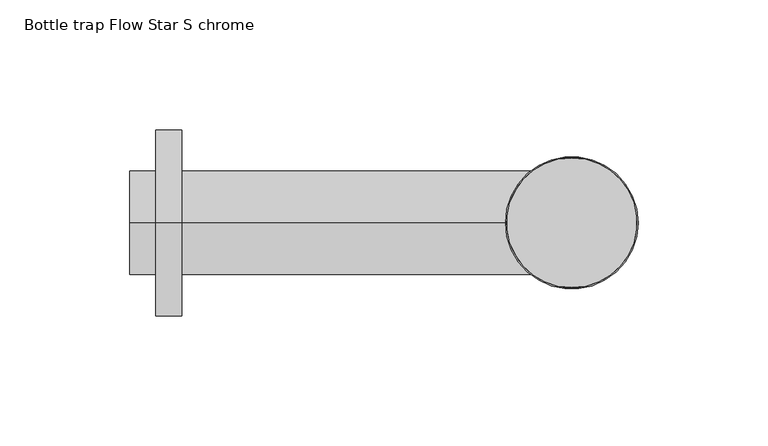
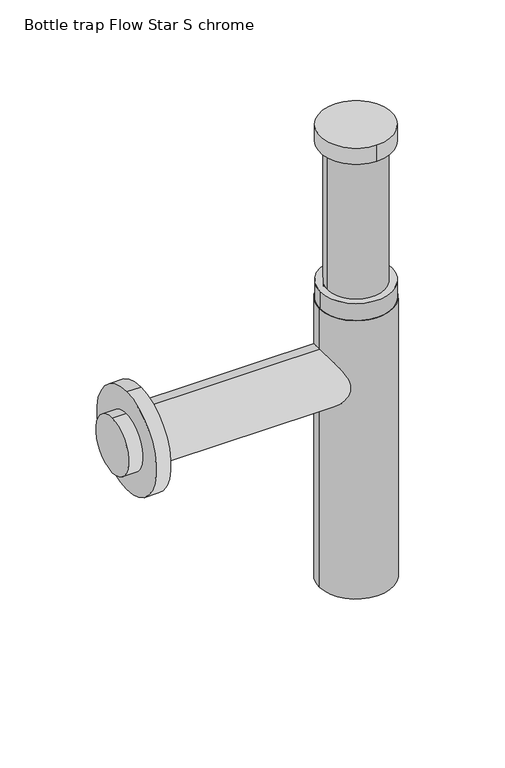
"""IFC4 building model written with IfcOpenShell, lengths in millimetres: flow terminal geometry, GF_SIFON-VESILUKKO FLOWSTAR S KROMI : Bottle trap Flow Star S chrome."""

from ifc_helpers import new_model, si_unit, point, frame, frame_2d, origin, origin_with_axes, origin_2d, place, context, project, spatial, circle_curve, trimmed, segment, composite_curve, outline, extrude, source, transform, mapped, element, save


def bottle_trap_flow_star_s_chrome_bf7072b5(model_context):
    return source(origin(), model_context, "Body", "SweptSolid", [
        extrude(outline(composite_curve([segment(trimmed(circle_curve(origin_2d(), 25.0), [point((0.0, 25.0))], [point((0.0, -25.0))], False, "CARTESIAN"), True, "CONTINUOUS"), segment(trimmed(circle_curve(origin_2d(), 25.0), [point((0.0, -25.0))], [point((0.0, 25.0))], False, "CARTESIAN"), True, "CONTINUOUS")], self_intersect=False)), frame((0.0, 0.0, 320.0), z_axis=(0.0, 0.0, 1.0), x_axis=(1.0, 0.0, 0.0)), (0.0, 0.0, 1.0), 12.0),
        extrude(outline(composite_curve([segment(trimmed(circle_curve(origin_2d(), 20.0), [point((20.0, 0.0))], [point((-20.0, 0.0))], False, "CARTESIAN"), True, "CONTINUOUS"), segment(trimmed(circle_curve(origin_2d(), 20.0), [point((-20.0, 0.0))], [point((20.0, 0.0))], False, "CARTESIAN"), True, "CONTINUOUS")], self_intersect=False)), frame((0.0, 0.0, 155.0), z_axis=(0.0, 0.0, 1.0), x_axis=(1.0, 0.0, 0.0)), (0.0, 0.0, 1.0), 165.0),
        extrude(outline(composite_curve([segment(trimmed(circle_curve(frame_2d((0.0, 155.0)), 36.0), [point((0.0, 119.0))], [point((0.0, 191.0))], False, "CARTESIAN"), True, "CONTINUOUS"), segment(trimmed(circle_curve(frame_2d((0.0, 155.0)), 36.0), [point((0.0, 191.0))], [point((0.0, 119.0))], False, "CARTESIAN"), True, "CONTINUOUS")], self_intersect=False)), frame((-160.0, 0.0, 0.0), z_axis=(1.0, 0.0, 0.0), x_axis=(0.0, 1.0, 0.0)), (0.0, 0.0, 1.0), 10.0),
        extrude(outline(composite_curve([segment(trimmed(circle_curve(frame_2d((0.0, 155.0)), 20.0), [point((0.0, 135.0))], [point((0.0, 175.0))], False, "CARTESIAN"), True, "CONTINUOUS"), segment(trimmed(circle_curve(frame_2d((0.0, 155.0)), 20.0), [point((0.0, 175.0))], [point((0.0, 135.0))], False, "CARTESIAN"), True, "CONTINUOUS")], self_intersect=False)), frame((-170.0, 0.0, 0.0), z_axis=(1.0, 0.0, 0.0), x_axis=(0.0, 1.0, 0.0)), (0.0, 0.0, 1.0), 170.0),
        extrude(outline(composite_curve([segment(trimmed(circle_curve(origin_2d(), 25.0), [point((25.0, 0.0))], [point((-25.0, 0.0))], False, "CARTESIAN"), True, "CONTINUOUS"), segment(trimmed(circle_curve(origin_2d(), 25.0), [point((-25.0, 0.0))], [point((25.0, 0.0))], False, "CARTESIAN"), True, "CONTINUOUS")], self_intersect=False)), frame((0.0, 0.0, 205.0), z_axis=(0.0, 0.0, 1.0), x_axis=(1.0, 0.0, 0.0)), (0.0, 0.0, 1.0), 12.5),
        extrude(outline(composite_curve([segment(trimmed(circle_curve(origin_2d(), 25.5), [point((25.5, 0.0))], [point((-25.5, 0.0))], False, "CARTESIAN"), True, "CONTINUOUS"), segment(trimmed(circle_curve(origin_2d(), 25.5), [point((-25.5, 0.0))], [point((25.5, 0.0))], False, "CARTESIAN"), True, "CONTINUOUS")], self_intersect=False)), origin_with_axes(), (0.0, 0.0, 1.0), 205.0),
    ])


if __name__ == "__main__":
    model = new_model("IFC4")
    model_context = context("Model", 3, world=origin())
    ifc_project = project(units=[si_unit("LENGTHUNIT", "METRE", prefix="MILLI")], contexts=[model_context])
    site = spatial("IfcSite", under=ifc_project)
    building = spatial("IfcBuilding", under=site)
    placement = place(None, origin())
    bottle_trap_flow_star_s_chrome_shape = bottle_trap_flow_star_s_chrome_bf7072b5(model_context)
    element("IfcFlowTerminal", 1, ObjectType="GF_SIFON-VESILUKKO FLOWSTAR S KROMI : Bottle trap Flow Star S chrome", at=placement, inside=building, context=model_context, shape_type="MappedRepresentation", body=[
        mapped(bottle_trap_flow_star_s_chrome_shape, transform((0.0, 0.0, 0.0), x_axis=(1.0, 0.0, 0.0), y_axis=(0.0, 1.0, 0.0), z_axis=(0.0, 0.0, 1.0))),
    ])
    save(model, "model.ifc")
